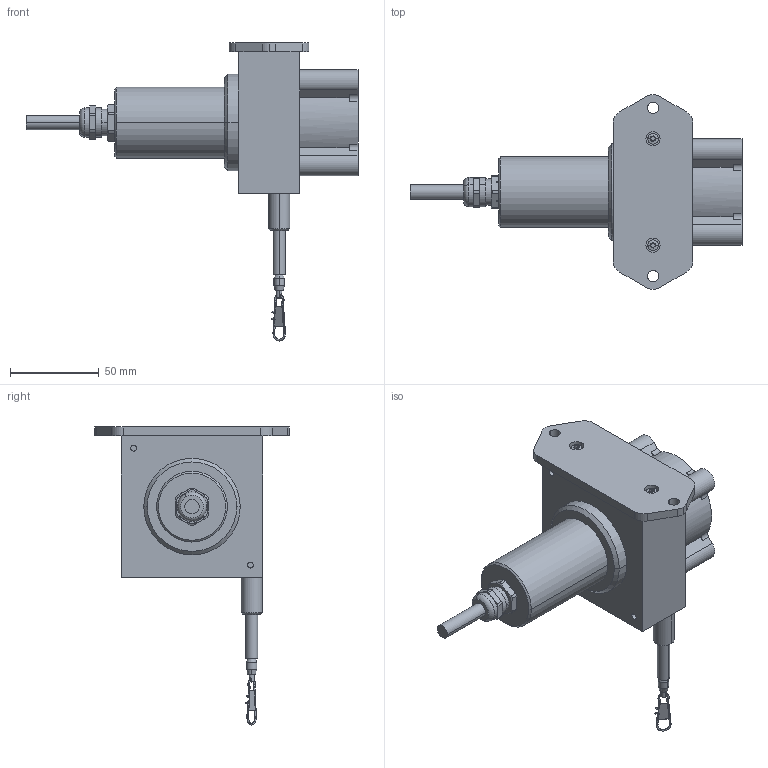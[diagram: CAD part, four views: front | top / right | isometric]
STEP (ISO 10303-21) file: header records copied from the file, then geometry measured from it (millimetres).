
FILE_DESCRIPTION (( 'STEP AP203' ), '1' );
FILE_NAME ('DW1000-110-CA.step', '2017-05-10T13:58:19', ( 'Turck User' ), ( '' ), 'SwSTEP 2.0', 'SolidWorks 2015', '' );
FILE_SCHEMA (( 'CONFIG_CONTROL_DESIGN' ));
Length unit declared in the file: millimetre
Products named in the file (2): DW1000-110-CA
Bounding box: 187.5 x 110 x 168.33 mm (x, y, z)
Volume: 441607.7 mm3; surface area: 54178.9 mm2
Topology: 1 solids, 8 shells, 462 faces, 1165 edges, 753 vertices
Faces by surface type: plane 204, cylinder 174, cone 48, sphere 14, torus 12, bspline 10
Entity records: 15240 total; most frequent: CARTESIAN_POINT 3663, DIRECTION 2545, ORIENTED_EDGE 2318, EDGE_CURVE 1159, AXIS2_PLACEMENT_3D 999, VERTEX_POINT 753, VECTOR 547, LINE 547
